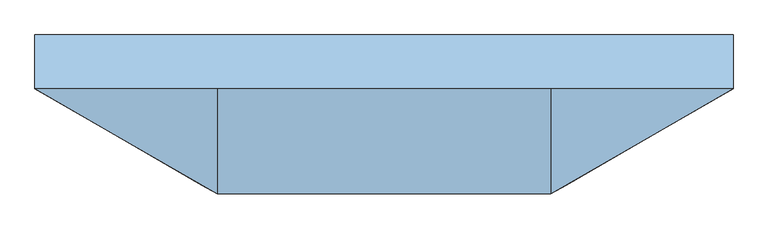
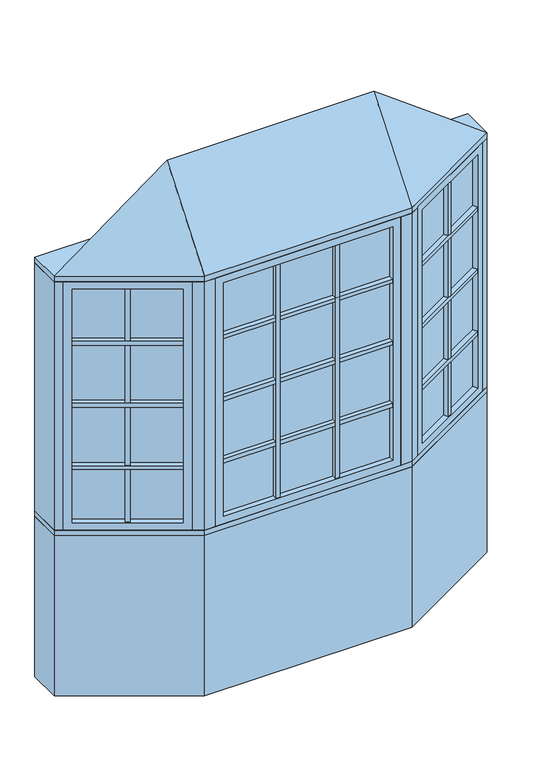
"""IFC4 building model written with IfcOpenShell, lengths in millimetres: window geometry, Pollard_Windows_Tudor Casement Bows and Bays : AML-BAY 30 AFR0512-10-500_GC."""

from ifc_helpers import new_model, si_unit, frame, origin, origin_with_axes, place, context, project, spatial, polyline, outline, extrude, faceted_brep, source, transform, mapped, element, save


def window_02c418e3(model_context):
    return source(origin(), model_context, "Body", "SolidModel", [
        extrude(outline(polyline([(545.7305346, -327.3537343), (534.7305346, -308.3011754), (915.6135794, -88.3982469), (926.6135794, -107.4508058), (545.7305346, -327.3537343)])), frame((0.0, 0.0, 1390.998), z_axis=(0.0, 0.0, 1.0), x_axis=(1.0, 0.0, 0.0)), (0.0, 0.0, 1.0), 18.0),
        extrude(outline(polyline([(532.1905346, -303.9017664), (521.1905346, -284.8492075), (902.0735794, -64.946279), (913.0735794, -83.9988379), (532.1905346, -303.9017664)])), frame((0.0, 0.0, 1390.998), z_axis=(0.0, 0.0, 1.0), x_axis=(1.0, 0.0, 0.0)), (0.0, 0.0, 1.0), 18.0),
        extrude(outline(polyline([(545.7305346, -327.3537343), (534.7305346, -308.3011754), (915.6135794, -88.3982469), (926.6135794, -107.4508058), (545.7305346, -327.3537343)])), frame((0.0, 0.0, 1090.998), z_axis=(0.0, 0.0, 1.0), x_axis=(1.0, 0.0, 0.0)), (0.0, 0.0, 1.0), 18.0),
        extrude(outline(polyline([(532.1905346, -303.9017664), (521.1905346, -284.8492075), (902.0735794, -64.946279), (913.0735794, -83.9988379), (532.1905346, -303.9017664)])), frame((0.0, 0.0, 1090.998), z_axis=(0.0, 0.0, 1.0), x_axis=(1.0, 0.0, 0.0)), (0.0, 0.0, 1.0), 18.0),
        extrude(outline(polyline([(545.7305346, -327.3537343), (534.7305346, -308.3011754), (915.6135794, -88.3982469), (926.6135794, -107.4508058), (545.7305346, -327.3537343)])), frame((0.0, 0.0, 1390.998), z_axis=(0.0, 0.0, 1.0), x_axis=(1.0, 0.0, 0.0)), (0.0, 0.0, 1.0), 18.0),
        extrude(outline(polyline([(532.1905346, -303.9017664), (521.1905346, -284.8492075), (902.0735794, -64.946279), (913.0735794, -83.9988379), (532.1905346, -303.9017664)])), frame((0.0, 0.0, 1390.998), z_axis=(0.0, 0.0, 1.0), x_axis=(1.0, 0.0, 0.0)), (0.0, 0.0, 1.0), 18.0),
        extrude(outline(polyline([(545.7305346, -327.3537343), (534.7305346, -308.3011754), (915.6135794, -88.3982469), (926.6135794, -107.4508058), (545.7305346, -327.3537343)])), frame((0.0, 0.0, 1390.998), z_axis=(0.0, 0.0, 1.0), x_axis=(1.0, 0.0, 0.0)), (0.0, 0.0, 1.0), 18.0),
        extrude(outline(polyline([(532.1905346, -303.9017664), (521.1905346, -284.8492075), (902.0735794, -64.946279), (913.0735794, -83.9988379), (532.1905346, -303.9017664)])), frame((0.0, 0.0, 1390.998), z_axis=(0.0, 0.0, 1.0), x_axis=(1.0, 0.0, 0.0)), (0.0, 0.0, 1.0), 18.0),
        extrude(outline(polyline([(545.7305346, -327.3537343), (534.7305346, -308.3011754), (915.6135794, -88.3982469), (926.6135794, -107.4508058), (545.7305346, -327.3537343)])), frame((0.0, 0.0, 1690.998), z_axis=(0.0, 0.0, 1.0), x_axis=(1.0, 0.0, 0.0)), (0.0, 0.0, 1.0), 18.0),
        extrude(outline(polyline([(532.1905346, -303.9017664), (521.1905346, -284.8492075), (902.0735794, -64.946279), (913.0735794, -83.9988379), (532.1905346, -303.9017664)])), frame((0.0, 0.0, 1690.998), z_axis=(0.0, 0.0, 1.0), x_axis=(1.0, 0.0, 0.0)), (0.0, 0.0, 1.0), 18.0),
        extrude(outline(polyline([(732.9662856, -193.8497112), (743.9662856, -212.9022701), (728.3778284, -221.9022701), (717.3778284, -202.8497112), (732.9662856, -193.8497112)])), frame((0.0, 0.0, 835.8628), z_axis=(0.0, 0.0, 1.0), x_axis=(1.0, 0.0, 0.0)), (0.0, 0.0, 1.0), 1128.2704),
        extrude(outline(polyline([(730.4262856, -189.4503021), (714.8378284, -198.4503021), (703.8378284, -179.3977432), (719.4262856, -170.3977432), (730.4262856, -189.4503021)])), frame((0.0, 0.0, 835.8628), z_axis=(0.0, 0.0, 1.0), x_axis=(1.0, 0.0, 0.0)), (0.0, 0.0, 1.0), 1128.2704),
        extrude(outline(polyline([(926.612102, -82.0482469), (523.7320119, -314.6511754), (521.1920119, -310.2517664), (924.072102, -77.6488379), (926.612102, -82.0482469)])), frame((0.0, 0.0, 823.1628), z_axis=(0.0, 0.0, 1.0), x_axis=(1.0, 0.0, 0.0)), (0.0, 0.0, 1.0), 1153.6704),
        faceted_brep([(915.6135794, -88.3982469, 835.8628), (928.3135794, -110.3952922, 835.8628), (928.3135794, -110.3952922, 1964.1332), (915.6135794, -88.3982469, 1964.1332), (924.072102, -77.6488379, 823.1628), (926.612102, -82.0482469, 823.1628), (926.612102, -82.0482469, 1976.8332), (924.072102, -77.6488379, 1976.8332), (900.3735794, -62.0017926, 835.8628), (913.0735794, -83.9988379, 835.8628), (913.0735794, -83.9988379, 1964.1332), (900.3735794, -62.0017926, 1964.1332), (959.3734073, -92.4628922, 799.998), (931.4334073, -44.0693926, 799.998), (931.4334073, -44.0693926, 1999.998), (959.3734073, -92.4628922, 1999.998), (547.4305346, -330.2982207, 1964.1332), (534.7305346, -308.3011754, 1964.1332), (523.7320119, -314.6511754, 1976.8332), (521.1920119, -310.2517664, 1976.8332), (532.1905346, -303.9017664, 1964.1332), (519.4905346, -281.9047211, 1964.1332), (488.4307067, -299.8371211, 1999.998), (516.3707067, -348.2306207, 1999.998), (547.4305346, -330.2982207, 835.8628), (534.7305346, -308.3011754, 835.8628), (523.7320119, -314.6511754, 823.1628), (521.1920119, -310.2517664, 823.1628), (532.1905346, -303.9017664, 835.8628), (519.4905346, -281.9047211, 835.8628), (488.4307067, -299.8371211, 799.998), (516.3707067, -348.2306207, 799.998)], [[[0, 1, 2, 3]], [[4, 5, 6, 7]], [[8, 9, 10, 11]], [[12, 13, 14, 15]], [[3, 2, 16, 17]], [[7, 6, 18, 19]], [[11, 10, 20, 21]], [[15, 14, 22, 23]], [[17, 16, 24, 25]], [[19, 18, 26, 27]], [[21, 20, 28, 29]], [[23, 22, 30, 31]], [[25, 24, 1, 0]], [[5, 26, 18, 6], [3, 17, 25, 0]], [[27, 26, 5, 4]], [[7, 19, 27, 4], [9, 28, 20, 10]], [[29, 28, 9, 8]], [[13, 30, 22, 14], [11, 21, 29, 8]], [[31, 30, 13, 12]], [[15, 23, 31, 12], [1, 24, 16, 2]]]),
        extrude(outline(polyline([(145.3016788, -347.8306207), (145.3016788, -369.8306207), (127.3016788, -369.8306207), (127.3016788, -347.8306207), (145.3016788, -347.8306207)])), frame((0.0, 0.0, 835.8628), z_axis=(0.0, 0.0, 1.0), x_axis=(1.0, 0.0, 0.0)), (0.0, 0.0, 1.0), 1128.2704),
        extrude(outline(polyline([(145.3016788, -342.7506207), (127.3016788, -342.7506207), (127.3016788, -320.7506207), (145.3016788, -320.7506207), (145.3016788, -342.7506207)])), frame((0.0, 0.0, 835.8628), z_axis=(0.0, 0.0, 1.0), x_axis=(1.0, 0.0, 0.0)), (0.0, 0.0, 1.0), 1128.2704),
        extrude(outline(polyline([(-127.3016788, -347.8306207), (-127.3016788, -369.8306207), (-145.3016788, -369.8306207), (-145.3016788, -347.8306207), (-127.3016788, -347.8306207)])), frame((0.0, 0.0, 835.8628), z_axis=(0.0, 0.0, 1.0), x_axis=(1.0, 0.0, 0.0)), (0.0, 0.0, 1.0), 1128.2704),
        extrude(outline(polyline([(-127.3016788, -342.7506207), (-145.3016788, -342.7506207), (-145.3016788, -320.7506207), (-127.3016788, -320.7506207), (-127.3016788, -342.7506207)])), frame((0.0, 0.0, 835.8628), z_axis=(0.0, 0.0, 1.0), x_axis=(1.0, 0.0, 0.0)), (0.0, 0.0, 1.0), 1128.2704),
        extrude(outline(polyline([(-387.2046365, -369.8306207), (-387.2046365, -347.8306207), (387.2046365, -347.8306207), (387.2046365, -369.8306207), (-387.2046365, -369.8306207)])), frame((0.0, 0.0, 1090.998), z_axis=(0.0, 0.0, 1.0), x_axis=(1.0, 0.0, 0.0)), (0.0, 0.0, 1.0), 18.0),
        extrude(outline(polyline([(-387.2046365, -342.7506207), (-387.2046365, -320.7506207), (387.2046365, -320.7506207), (387.2046365, -342.7506207), (-387.2046365, -342.7506207)])), frame((0.0, 0.0, 1090.998), z_axis=(0.0, 0.0, 1.0), x_axis=(1.0, 0.0, 0.0)), (0.0, 0.0, 1.0), 18.0),
        extrude(outline(polyline([(-387.2046365, -369.8306207), (-387.2046365, -347.8306207), (387.2046365, -347.8306207), (387.2046365, -369.8306207), (-387.2046365, -369.8306207)])), frame((0.0, 0.0, 1390.998), z_axis=(0.0, 0.0, 1.0), x_axis=(1.0, 0.0, 0.0)), (0.0, 0.0, 1.0), 18.0),
        extrude(outline(polyline([(-387.2046365, -342.7506207), (-387.2046365, -320.7506207), (387.2046365, -320.7506207), (387.2046365, -342.7506207), (-387.2046365, -342.7506207)])), frame((0.0, 0.0, 1390.998), z_axis=(0.0, 0.0, 1.0), x_axis=(1.0, 0.0, 0.0)), (0.0, 0.0, 1.0), 18.0),
        extrude(outline(polyline([(-387.2046365, -369.8306207), (-387.2046365, -347.8306207), (387.2046365, -347.8306207), (387.2046365, -369.8306207), (-387.2046365, -369.8306207)])), frame((0.0, 0.0, 1390.998), z_axis=(0.0, 0.0, 1.0), x_axis=(1.0, 0.0, 0.0)), (0.0, 0.0, 1.0), 18.0),
        extrude(outline(polyline([(-387.2046365, -342.7506207), (-387.2046365, -320.7506207), (387.2046365, -320.7506207), (387.2046365, -342.7506207), (-387.2046365, -342.7506207)])), frame((0.0, 0.0, 1390.998), z_axis=(0.0, 0.0, 1.0), x_axis=(1.0, 0.0, 0.0)), (0.0, 0.0, 1.0), 18.0),
        extrude(outline(polyline([(-387.2046365, -369.8306207), (-387.2046365, -347.8306207), (387.2046365, -347.8306207), (387.2046365, -369.8306207), (-387.2046365, -369.8306207)])), frame((0.0, 0.0, 1390.998), z_axis=(0.0, 0.0, 1.0), x_axis=(1.0, 0.0, 0.0)), (0.0, 0.0, 1.0), 18.0),
        extrude(outline(polyline([(-387.2046365, -342.7506207), (-387.2046365, -320.7506207), (387.2046365, -320.7506207), (387.2046365, -342.7506207), (-387.2046365, -342.7506207)])), frame((0.0, 0.0, 1390.998), z_axis=(0.0, 0.0, 1.0), x_axis=(1.0, 0.0, 0.0)), (0.0, 0.0, 1.0), 18.0),
        extrude(outline(polyline([(-926.6135794, -107.4508058), (-915.6135794, -88.3982469), (-534.7305346, -308.3011754), (-545.7305346, -327.3537343), (-926.6135794, -107.4508058)])), frame((0.0, 0.0, 1090.998), z_axis=(0.0, 0.0, 1.0), x_axis=(1.0, 0.0, 0.0)), (0.0, 0.0, 1.0), 18.0),
        extrude(outline(polyline([(-913.0735794, -83.9988379), (-902.0735794, -64.946279), (-521.1905346, -284.8492075), (-532.1905346, -303.9017664), (-913.0735794, -83.9988379)])), frame((0.0, 0.0, 1090.998), z_axis=(0.0, 0.0, 1.0), x_axis=(1.0, 0.0, 0.0)), (0.0, 0.0, 1.0), 18.0),
        extrude(outline(polyline([(-926.6135794, -107.4508058), (-915.6135794, -88.3982469), (-534.7305346, -308.3011754), (-545.7305346, -327.3537343), (-926.6135794, -107.4508058)])), frame((0.0, 0.0, 1390.998), z_axis=(0.0, 0.0, 1.0), x_axis=(1.0, 0.0, 0.0)), (0.0, 0.0, 1.0), 18.0),
        extrude(outline(polyline([(-913.0735794, -83.9988379), (-902.0735794, -64.946279), (-521.1905346, -284.8492075), (-532.1905346, -303.9017664), (-913.0735794, -83.9988379)])), frame((0.0, 0.0, 1390.998), z_axis=(0.0, 0.0, 1.0), x_axis=(1.0, 0.0, 0.0)), (0.0, 0.0, 1.0), 18.0),
        extrude(outline(polyline([(-926.6135794, -107.4508058), (-915.6135794, -88.3982469), (-534.7305346, -308.3011754), (-545.7305346, -327.3537343), (-926.6135794, -107.4508058)])), frame((0.0, 0.0, 1390.998), z_axis=(0.0, 0.0, 1.0), x_axis=(1.0, 0.0, 0.0)), (0.0, 0.0, 1.0), 18.0),
        extrude(outline(polyline([(-913.0735794, -83.9988379), (-902.0735794, -64.946279), (-521.1905346, -284.8492075), (-532.1905346, -303.9017664), (-913.0735794, -83.9988379)])), frame((0.0, 0.0, 1390.998), z_axis=(0.0, 0.0, 1.0), x_axis=(1.0, 0.0, 0.0)), (0.0, 0.0, 1.0), 18.0),
        extrude(outline(polyline([(-926.6135794, -107.4508058), (-915.6135794, -88.3982469), (-534.7305346, -308.3011754), (-545.7305346, -327.3537343), (-926.6135794, -107.4508058)])), frame((0.0, 0.0, 1390.998), z_axis=(0.0, 0.0, 1.0), x_axis=(1.0, 0.0, 0.0)), (0.0, 0.0, 1.0), 18.0),
        extrude(outline(polyline([(-913.0735794, -83.9988379), (-902.0735794, -64.946279), (-521.1905346, -284.8492075), (-532.1905346, -303.9017664), (-913.0735794, -83.9988379)])), frame((0.0, 0.0, 1390.998), z_axis=(0.0, 0.0, 1.0), x_axis=(1.0, 0.0, 0.0)), (0.0, 0.0, 1.0), 18.0),
        extrude(outline(polyline([(-926.6135794, -107.4508058), (-915.6135794, -88.3982469), (-534.7305346, -308.3011754), (-545.7305346, -327.3537343), (-926.6135794, -107.4508058)])), frame((0.0, 0.0, 1690.998), z_axis=(0.0, 0.0, 1.0), x_axis=(1.0, 0.0, 0.0)), (0.0, 0.0, 1.0), 18.0),
        extrude(outline(polyline([(-913.0735794, -83.9988379), (-902.0735794, -64.946279), (-521.1905346, -284.8492075), (-532.1905346, -303.9017664), (-913.0735794, -83.9988379)])), frame((0.0, 0.0, 1690.998), z_axis=(0.0, 0.0, 1.0), x_axis=(1.0, 0.0, 0.0)), (0.0, 0.0, 1.0), 18.0),
        extrude(outline(polyline([(-387.2046365, -369.8306207), (-387.2046365, -347.8306207), (387.2046365, -347.8306207), (387.2046365, -369.8306207), (-387.2046365, -369.8306207)])), frame((0.0, 0.0, 1690.998), z_axis=(0.0, 0.0, 1.0), x_axis=(1.0, 0.0, 0.0)), (0.0, 0.0, 1.0), 18.0),
        extrude(outline(polyline([(-387.2046365, -342.7506207), (-387.2046365, -320.7506207), (387.2046365, -320.7506207), (387.2046365, -342.7506207), (-387.2046365, -342.7506207)])), frame((0.0, 0.0, 1690.998), z_axis=(0.0, 0.0, 1.0), x_axis=(1.0, 0.0, 0.0)), (0.0, 0.0, 1.0), 18.0),
        extrude(outline(polyline([(-717.3778284, -202.8497112), (-728.3778284, -221.9022701), (-743.9662856, -212.9022701), (-732.9662856, -193.8497112), (-717.3778284, -202.8497112)])), frame((0.0, 0.0, 835.8628), z_axis=(0.0, 0.0, 1.0), x_axis=(1.0, 0.0, 0.0)), (0.0, 0.0, 1.0), 1128.2704),
        extrude(outline(polyline([(-714.8378284, -198.4503021), (-730.4262856, -189.4503021), (-719.4262856, -170.3977432), (-703.8378284, -179.3977432), (-714.8378284, -198.4503021)])), frame((0.0, 0.0, 835.8628), z_axis=(0.0, 0.0, 1.0), x_axis=(1.0, 0.0, 0.0)), (0.0, 0.0, 1.0), 1128.2704),
        extrude(outline(polyline([(-523.7320119, -314.6511754), (-926.612102, -82.0482469), (-924.072102, -77.6488379), (-521.1920119, -310.2517664), (-523.7320119, -314.6511754)])), frame((0.0, 0.0, 823.1628), z_axis=(0.0, 0.0, 1.0), x_axis=(1.0, 0.0, 0.0)), (0.0, 0.0, 1.0), 1153.6704),
        faceted_brep([(-532.1905346, -303.9017664, 1964.1332), (-519.4905346, -281.9047211, 1964.1332), (-519.4905346, -281.9047211, 835.8628), (-532.1905346, -303.9017664, 835.8628), (-523.7320119, -314.6511754, 1976.8332), (-521.1920119, -310.2517664, 1976.8332), (-521.1920119, -310.2517664, 823.1628), (-523.7320119, -314.6511754, 823.1628), (-547.4305346, -330.2982207, 1964.1332), (-534.7305346, -308.3011754, 1964.1332), (-534.7305346, -308.3011754, 835.8628), (-547.4305346, -330.2982207, 835.8628), (-488.4307067, -299.8371211, 1999.998), (-516.3707067, -348.2306207, 1999.998), (-516.3707067, -348.2306207, 799.998), (-488.4307067, -299.8371211, 799.998), (-900.3735794, -62.0017926, 835.8628), (-913.0735794, -83.9988379, 835.8628), (-924.072102, -77.6488379, 823.1628), (-926.612102, -82.0482469, 823.1628), (-915.6135794, -88.3982469, 835.8628), (-928.3135794, -110.3952922, 835.8628), (-959.3734073, -92.4628922, 799.998), (-931.4334073, -44.0693926, 799.998), (-900.3735794, -62.0017926, 1964.1332), (-913.0735794, -83.9988379, 1964.1332), (-924.072102, -77.6488379, 1976.8332), (-926.612102, -82.0482469, 1976.8332), (-915.6135794, -88.3982469, 1964.1332), (-928.3135794, -110.3952922, 1964.1332), (-959.3734073, -92.4628922, 1999.998), (-931.4334073, -44.0693926, 1999.998)], [[[0, 1, 2, 3]], [[4, 5, 6, 7]], [[8, 9, 10, 11]], [[12, 13, 14, 15]], [[3, 2, 16, 17]], [[7, 6, 18, 19]], [[11, 10, 20, 21]], [[15, 14, 22, 23]], [[17, 16, 24, 25]], [[19, 18, 26, 27]], [[21, 20, 28, 29]], [[23, 22, 30, 31]], [[15, 23, 31, 12], [1, 24, 16, 2]], [[25, 24, 1, 0]], [[5, 26, 18, 6], [3, 17, 25, 0]], [[27, 26, 5, 4]], [[7, 19, 27, 4], [9, 28, 20, 10]], [[29, 28, 9, 8]], [[13, 30, 22, 14], [11, 21, 29, 8]], [[31, 30, 13, 12]]]),
        extrude(outline(polyline([(399.9046365, -347.8306207), (-399.9046365, -347.8306207), (-399.9046365, -342.7506207), (399.9046365, -342.7506207), (399.9046365, -347.8306207)])), frame((0.0, 0.0, 823.1628), z_axis=(0.0, 0.0, 1.0), x_axis=(1.0, 0.0, 0.0)), (0.0, 0.0, 1.0), 1153.6704),
        faceted_brep([(387.2046365, -347.8306207, 835.8628), (387.2046365, -373.2306207, 835.8628), (387.2046365, -373.2306207, 1964.1332), (387.2046365, -347.8306207, 1964.1332), (399.9046365, -342.7506207, 823.1628), (399.9046365, -347.8306207, 823.1628), (399.9046365, -347.8306207, 1976.8332), (399.9046365, -342.7506207, 1976.8332), (387.2046365, -317.3506207, 835.8628), (387.2046365, -342.7506207, 835.8628), (387.2046365, -342.7506207, 1964.1332), (387.2046365, -317.3506207, 1964.1332), (423.0694365, -373.2306207, 799.998), (423.0694365, -317.3506207, 799.998), (423.0694365, -317.3506207, 1999.998), (423.0694365, -373.2306207, 1999.998), (-387.2046365, -373.2306207, 1964.1332), (-387.2046365, -347.8306207, 1964.1332), (-399.9046365, -347.8306207, 1976.8332), (-399.9046365, -342.7506207, 1976.8332), (-387.2046365, -342.7506207, 1964.1332), (-387.2046365, -317.3506207, 1964.1332), (-423.0694365, -317.3506207, 1999.998), (-423.0694365, -373.2306207, 1999.998), (-387.2046365, -373.2306207, 835.8628), (-387.2046365, -347.8306207, 835.8628), (-399.9046365, -347.8306207, 823.1628), (-399.9046365, -342.7506207, 823.1628), (-387.2046365, -342.7506207, 835.8628), (-387.2046365, -317.3506207, 835.8628), (-423.0694365, -317.3506207, 799.998), (-423.0694365, -373.2306207, 799.998)], [[[0, 1, 2, 3]], [[4, 5, 6, 7]], [[8, 9, 10, 11]], [[12, 13, 14, 15]], [[3, 2, 16, 17]], [[7, 6, 18, 19]], [[11, 10, 20, 21]], [[15, 14, 22, 23]], [[17, 16, 24, 25]], [[19, 18, 26, 27]], [[21, 20, 28, 29]], [[23, 22, 30, 31]], [[15, 23, 31, 12], [1, 24, 16, 2]], [[25, 24, 1, 0]], [[5, 26, 18, 6], [3, 17, 25, 0]], [[27, 26, 5, 4]], [[7, 19, 27, 4], [9, 28, 20, 10]], [[29, 28, 9, 8]], [[13, 30, 22, 14], [11, 21, 29, 8]], [[31, 30, 13, 12]]]),
        faceted_brep([(990.0, -74.7806207, 2025.398), (473.0694365, -373.2306207, 2025.398), (-473.0694365, -373.2306207, 2025.398), (-990.0, -74.7806207, 2025.398), (-473.0694365, -74.7806207, 2406.398), (473.0694365, -74.7806207, 2406.398)], [[[0, 1, 2, 3]], [[3, 2, 4]], [[2, 1, 5, 4]], [[1, 0, 5]], [[0, 3, 4, 5]]]),
        extrude(outline(polyline([(-990.0, 77.6193793), (990.0, 77.6193793), (990.0, -74.7806207), (473.0694365, -373.2306207), (-473.0694365, -373.2306207), (-990.0, -74.7806207), (-990.0, 77.6193793)])), frame((0.0, 0.0, 1999.998), z_axis=(0.0, 0.0, 1.0), x_axis=(1.0, 0.0, 0.0)), (0.0, 0.0, 1.0), 25.4),
        extrude(outline(polyline([(-990.0, -74.7806207), (-990.0, 77.6193793), (-949.1645431, 77.6193793), (-949.1645431, -74.7806207), (-959.3734073, -92.4628922), (-990.0, -74.7806207)])), frame((0.0, 0.0, 799.998), z_axis=(0.0, 0.0, 1.0), x_axis=(1.0, 0.0, 0.0)), (0.0, 0.0, 1.0), 1200.0),
        extrude(outline(polyline([(990.0, 77.6193793), (990.0, -74.7806207), (959.3734073, -92.4628922), (949.1645431, -74.7806207), (949.1645431, 77.6193793), (990.0, 77.6193793)])), frame((0.0, 0.0, 799.998), z_axis=(0.0, 0.0, 1.0), x_axis=(1.0, 0.0, 0.0)), (0.0, 0.0, 1.0), 1200.0),
        extrude(outline(polyline([(473.0694365, -373.2306207), (423.0694365, -373.2306207), (423.0694365, -323.2306207), (459.6719769, -323.2306207), (491.3707067, -304.9293505), (516.3707067, -348.2306207), (473.0694365, -373.2306207)])), frame((0.0, 0.0, 799.998), z_axis=(0.0, 0.0, 1.0), x_axis=(1.0, 0.0, 0.0)), (0.0, 0.0, 1.0), 1200.0),
        extrude(outline(polyline([(-473.0694365, -373.2306207), (-516.3707067, -348.2306207), (-491.3707067, -304.9293505), (-459.6719769, -323.2306207), (-423.0694365, -323.2306207), (-423.0694365, -373.2306207), (-473.0694365, -373.2306207)])), frame((0.0, 0.0, 799.998), z_axis=(0.0, 0.0, 1.0), x_axis=(1.0, 0.0, 0.0)), (0.0, 0.0, 1.0), 1200.0),
        extrude(outline(polyline([(-473.0694365, -373.2306207), (-990.0, -74.7806207), (-990.0, 77.6193793), (-949.1645431, 77.6193793), (-432.2339796, -220.8306207), (432.2339796, -220.8306207), (949.1645431, 77.6193793), (990.0, 77.6193793), (990.0, -74.7806207), (473.0694365, -373.2306207), (-473.0694365, -373.2306207)])), frame((0.0, 0.0, 774.598), z_axis=(0.0, 0.0, 1.0), x_axis=(1.0, 0.0, 0.0)), (0.0, 0.0, 1.0), 25.4),
        extrude(outline(polyline([(-990.0, -74.7806207), (-990.0, 77.6193793), (-949.1645431, 77.6193793), (-432.2339796, -220.8306207), (432.2339796, -220.8306207), (949.1645431, 77.6193793), (990.0, 77.6193793), (990.0, -74.7806207), (473.0694365, -373.2306207), (-473.0694365, -373.2306207), (-990.0, -74.7806207)])), origin_with_axes(), (0.0, 0.0, 1.0), 774.598),
    ])


if __name__ == "__main__":
    model = new_model("IFC4")
    model_context = context("Model", 3, world=origin())
    ifc_project = project(units=[si_unit("LENGTHUNIT", "METRE", prefix="MILLI")], contexts=[model_context])
    site = spatial("IfcSite", under=ifc_project)
    building = spatial("IfcBuilding", under=site)
    placement = place(None, origin())
    window_shape = window_02c418e3(model_context)
    element("IfcWindow", 1, ObjectType="Pollard_Windows_Tudor Casement Bows and Bays : AML-BAY 30 AFR0512-10-500_GC", at=placement, inside=building, context=model_context, shape_type="MappedRepresentation", body=[
        mapped(window_shape, transform((0.0, 0.0, 0.0), x_axis=(1.0, 0.0, 0.0), y_axis=(0.0, 1.0, 0.0), z_axis=(0.0, 0.0, 1.0))),
    ])
    save(model, "model.ifc")
